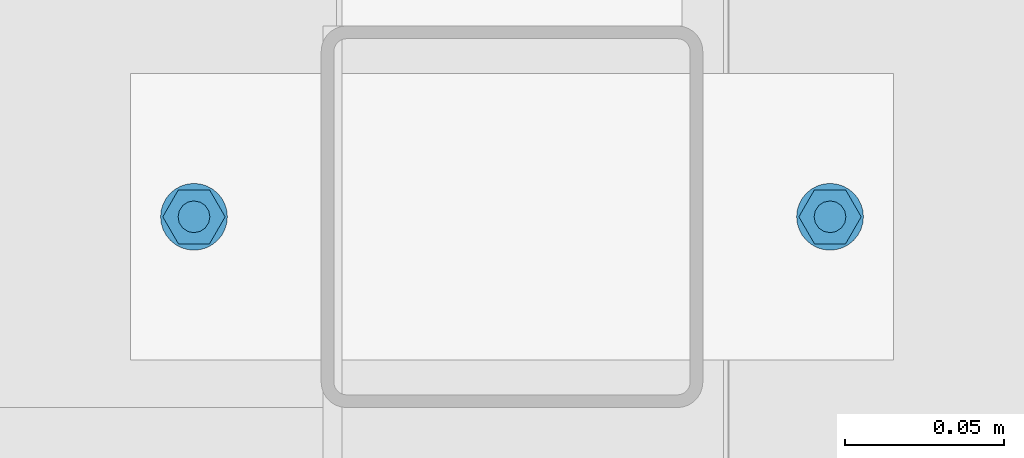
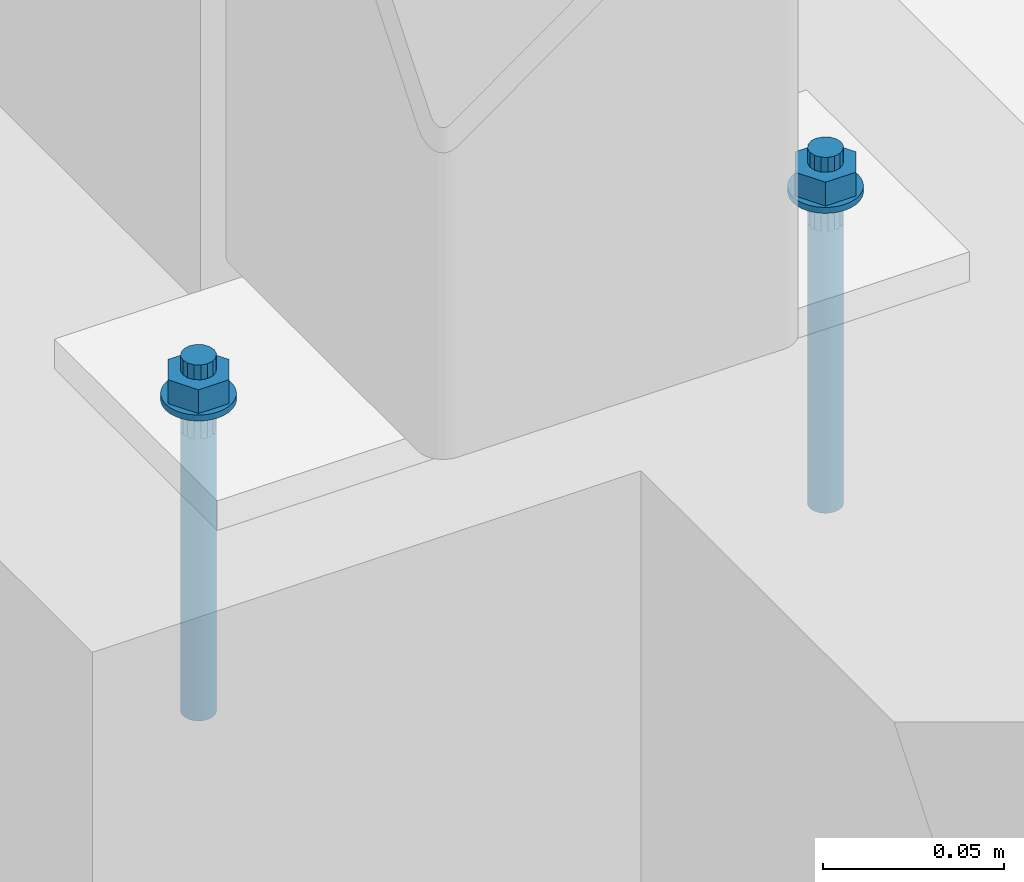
# One storey, part 93 of 476: 1 mechanical fastener.
"""IFC2X3 building model written with IfcOpenShell, lengths in millimetres."""

from ifc_helpers import new_model, entity, si_unit, converted_unit, origin_with_axes, place, context, project, spatial, faceted_brep, element, save


model = new_model("IFC2X3")

# Units and contexts
model_context = context("Model", 3, precision=1e-09, world=origin_with_axes())
ifc_project = project(units=[si_unit("LENGTHUNIT", "METRE", prefix="MILLI"), si_unit("AREAUNIT", "SQUARE_METRE"), si_unit("VOLUMEUNIT", "CUBIC_METRE"), converted_unit("PLANEANGLEUNIT", "DEGREE", entity("IfcPlaneAngleMeasure", 0.01745329), si_unit("PLANEANGLEUNIT", "RADIAN"), dimensions=[0, 0, 0, 0, 0, 0, 0])], contexts=[model_context])

# Site, building, storey
site_placement = place(None, origin_with_axes())
site = spatial("IfcSite", under=ifc_project, at=site_placement, Name="mKR Teilneubau & Sanierung BA1 - Ostfildern", CompositionType="ELEMENT")
building_placement = place(site_placement, origin_with_axes())
building = spatial("IfcBuilding", under=site, at=building_placement, Name="Struktur 1", CompositionType="ELEMENT")
storey_placement = place(building_placement, origin_with_axes())
storey = spatial("IfcBuildingStorey", under=building, at=storey_placement, Name="Default Storey", CompositionType="ELEMENT", Elevation=0.0)

# Mechanical fastener
mechanical_fastener_placement = place(None, origin_with_axes())
element("IfcMechanicalFastener", 1, at=mechanical_fastener_placement, inside=storey, ObjectType="Anchor_Bolt#1", NominalDiameter=10.0, NominalLength=120.0, context=model_context, shape_type="Brep", body=[
    faceted_brep([(8059.108804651, -17901.172034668, 527.0), (8059.108804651, -17901.172034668, 525.0), (8061.157253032, -17900.970280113, 525.0), (8061.157253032, -17900.970280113, 527.0), (8063.126980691, -17900.37276976, 525.0), (8063.126980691, -17900.37276976, 527.0), (8064.942292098, -17899.402465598, 525.0), (8064.942292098, -17899.402465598, 527.0), (8066.533425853, -17898.096655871, 525.0), (8066.533425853, -17898.096655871, 527.0), (8067.83923558, -17896.505522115, 525.0), (8067.83923558, -17896.505522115, 527.0), (8068.809539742, -17894.690210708, 525.0), (8068.809539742, -17894.690210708, 527.0), (8069.407050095, -17892.72048305, 525.0), (8069.407050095, -17892.72048305, 527.0), (8069.608804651, -17890.672034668, 525.0), (8069.608804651, -17890.672034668, 527.0), (8069.407050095, -17888.623586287, 525.0), (8069.407050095, -17888.623586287, 527.0), (8068.809539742, -17886.653858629, 525.0), (8068.809539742, -17886.653858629, 527.0), (8067.83923558, -17884.838547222, 525.0), (8067.83923558, -17884.838547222, 527.0), (8066.533425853, -17883.247413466, 525.0), (8066.533425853, -17883.247413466, 527.0), (8064.942292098, -17881.941603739, 525.0), (8064.942292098, -17881.941603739, 527.0), (8063.126980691, -17880.971299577, 525.0), (8063.126980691, -17880.971299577, 527.0), (8061.157253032, -17880.373789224, 525.0), (8061.157253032, -17880.373789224, 527.0), (8059.108804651, -17880.172034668, 525.0), (8059.108804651, -17880.172034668, 527.0), (8057.06035627, -17880.373789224, 525.0), (8057.06035627, -17880.373789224, 527.0), (8055.090628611, -17880.971299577, 525.0), (8055.090628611, -17880.971299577, 527.0), (8053.275317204, -17881.941603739, 525.0), (8053.275317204, -17881.941603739, 527.0), (8051.684183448, -17883.247413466, 525.0), (8051.684183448, -17883.247413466, 527.0), (8050.378373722, -17884.838547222, 525.0), (8050.378373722, -17884.838547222, 527.0), (8049.40806956, -17886.653858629, 525.0), (8049.40806956, -17886.653858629, 527.0), (8048.810559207, -17888.623586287, 525.0), (8048.810559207, -17888.623586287, 527.0), (8048.608804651, -17890.672034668, 525.0), (8048.608804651, -17890.672034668, 527.0), (8048.810559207, -17892.72048305, 525.0), (8048.810559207, -17892.72048305, 527.0), (8049.40806956, -17894.690210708, 525.0), (8049.40806956, -17894.690210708, 527.0), (8050.378373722, -17896.505522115, 525.0), (8050.378373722, -17896.505522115, 527.0), (8051.684183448, -17898.096655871, 525.0), (8051.684183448, -17898.096655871, 527.0), (8053.275317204, -17899.402465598, 525.0), (8053.275317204, -17899.402465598, 527.0), (8055.090628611, -17900.37276976, 525.0), (8055.090628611, -17900.37276976, 527.0), (8057.06035627, -17900.970280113, 525.0), (8057.06035627, -17900.970280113, 527.0)], [[[0, 1, 2, 3]], [[3, 2, 4, 5]], [[5, 4, 6, 7]], [[7, 6, 8, 9]], [[9, 8, 10, 11]], [[11, 10, 12, 13]], [[13, 12, 14, 15]], [[15, 14, 16, 17]], [[17, 16, 18, 19]], [[19, 18, 20, 21]], [[21, 20, 22, 23]], [[23, 22, 24, 25]], [[25, 24, 26, 27]], [[27, 26, 28, 29]], [[29, 28, 30, 31]], [[31, 30, 32, 33]], [[33, 32, 34, 35]], [[35, 34, 36, 37]], [[37, 36, 38, 39]], [[39, 38, 40, 41]], [[41, 40, 42, 43]], [[43, 42, 44, 45]], [[45, 44, 46, 47]], [[47, 46, 48, 49]], [[49, 48, 50, 51]], [[51, 50, 52, 53]], [[53, 52, 54, 55]], [[55, 54, 56, 57]], [[57, 56, 58, 59]], [[59, 58, 60, 61]], [[61, 60, 62, 63]], [[63, 62, 1, 0]], [[0, 3, 5, 7, 9, 11, 13, 15, 17, 19, 21, 23, 25, 27, 29, 31, 33, 35, 37, 39, 41, 43, 45, 47, 49, 51, 53, 55, 57, 59, 61, 63]], [[1, 62, 60, 58, 56, 54, 52, 50, 48, 46, 44, 42, 40, 38, 36, 34, 32, 30, 28, 26, 24, 22, 20, 18, 16, 14, 12, 10, 8, 6, 4, 2]]]),
    faceted_brep([(8259.108804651, -17901.172034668, 527.0), (8259.108804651, -17901.172034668, 525.0), (8261.157253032, -17900.970280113, 525.0), (8261.157253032, -17900.970280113, 527.0), (8263.126980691, -17900.37276976, 525.0), (8263.126980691, -17900.37276976, 527.0), (8264.942292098, -17899.402465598, 525.0), (8264.942292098, -17899.402465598, 527.0), (8266.533425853, -17898.096655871, 525.0), (8266.533425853, -17898.096655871, 527.0), (8267.83923558, -17896.505522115, 525.0), (8267.83923558, -17896.505522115, 527.0), (8268.809539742, -17894.690210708, 525.0), (8268.809539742, -17894.690210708, 527.0), (8269.407050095, -17892.72048305, 525.0), (8269.407050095, -17892.72048305, 527.0), (8269.608804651, -17890.672034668, 525.0), (8269.608804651, -17890.672034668, 527.0), (8269.407050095, -17888.623586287, 525.0), (8269.407050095, -17888.623586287, 527.0), (8268.809539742, -17886.653858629, 525.0), (8268.809539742, -17886.653858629, 527.0), (8267.83923558, -17884.838547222, 525.0), (8267.83923558, -17884.838547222, 527.0), (8266.533425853, -17883.247413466, 525.0), (8266.533425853, -17883.247413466, 527.0), (8264.942292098, -17881.941603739, 525.0), (8264.942292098, -17881.941603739, 527.0), (8263.126980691, -17880.971299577, 525.0), (8263.126980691, -17880.971299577, 527.0), (8261.157253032, -17880.373789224, 525.0), (8261.157253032, -17880.373789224, 527.0), (8259.108804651, -17880.172034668, 525.0), (8259.108804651, -17880.172034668, 527.0), (8257.06035627, -17880.373789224, 525.0), (8257.06035627, -17880.373789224, 527.0), (8255.090628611, -17880.971299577, 525.0), (8255.090628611, -17880.971299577, 527.0), (8253.275317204, -17881.941603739, 525.0), (8253.275317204, -17881.941603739, 527.0), (8251.684183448, -17883.247413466, 525.0), (8251.684183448, -17883.247413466, 527.0), (8250.378373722, -17884.838547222, 525.0), (8250.378373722, -17884.838547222, 527.0), (8249.40806956, -17886.653858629, 525.0), (8249.40806956, -17886.653858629, 527.0), (8248.810559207, -17888.623586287, 525.0), (8248.810559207, -17888.623586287, 527.0), (8248.608804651, -17890.672034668, 525.0), (8248.608804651, -17890.672034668, 527.0), (8248.810559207, -17892.72048305, 525.0), (8248.810559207, -17892.72048305, 527.0), (8249.40806956, -17894.690210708, 525.0), (8249.40806956, -17894.690210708, 527.0), (8250.378373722, -17896.505522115, 525.0), (8250.378373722, -17896.505522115, 527.0), (8251.684183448, -17898.096655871, 525.0), (8251.684183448, -17898.096655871, 527.0), (8253.275317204, -17899.402465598, 525.0), (8253.275317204, -17899.402465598, 527.0), (8255.090628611, -17900.37276976, 525.0), (8255.090628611, -17900.37276976, 527.0), (8257.06035627, -17900.970280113, 525.0), (8257.06035627, -17900.970280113, 527.0)], [[[0, 1, 2, 3]], [[3, 2, 4, 5]], [[5, 4, 6, 7]], [[7, 6, 8, 9]], [[9, 8, 10, 11]], [[11, 10, 12, 13]], [[13, 12, 14, 15]], [[15, 14, 16, 17]], [[17, 16, 18, 19]], [[19, 18, 20, 21]], [[21, 20, 22, 23]], [[23, 22, 24, 25]], [[25, 24, 26, 27]], [[27, 26, 28, 29]], [[29, 28, 30, 31]], [[31, 30, 32, 33]], [[33, 32, 34, 35]], [[35, 34, 36, 37]], [[37, 36, 38, 39]], [[39, 38, 40, 41]], [[41, 40, 42, 43]], [[43, 42, 44, 45]], [[45, 44, 46, 47]], [[47, 46, 48, 49]], [[49, 48, 50, 51]], [[51, 50, 52, 53]], [[53, 52, 54, 55]], [[55, 54, 56, 57]], [[57, 56, 58, 59]], [[59, 58, 60, 61]], [[61, 60, 62, 63]], [[63, 62, 1, 0]], [[0, 3, 5, 7, 9, 11, 13, 15, 17, 19, 21, 23, 25, 27, 29, 31, 33, 35, 37, 39, 41, 43, 45, 47, 49, 51, 53, 55, 57, 59, 61, 63]], [[1, 62, 60, 58, 56, 54, 52, 50, 48, 46, 44, 42, 40, 38, 36, 34, 32, 30, 28, 26, 24, 22, 20, 18, 16, 14, 12, 10, 8, 6, 4, 2]]]),
    faceted_brep([(8064.008804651, -17882.184985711, 527.0), (8064.008804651, -17882.184985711, 535.0), (8068.908804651, -17890.672034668, 535.0), (8068.908804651, -17890.672034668, 527.0), (8064.008804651, -17899.159083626, 535.0), (8064.008804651, -17899.159083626, 527.0), (8054.208804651, -17899.159083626, 535.0), (8054.208804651, -17899.159083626, 527.0), (8049.308804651, -17890.672034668, 535.0), (8049.308804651, -17890.672034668, 527.0), (8054.208804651, -17882.184985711, 535.0), (8054.208804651, -17882.184985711, 527.0)], [[[0, 1, 2, 3]], [[3, 2, 4, 5]], [[5, 4, 6, 7]], [[7, 6, 8, 9]], [[9, 8, 10, 11]], [[11, 10, 1, 0]], [[4, 2, 1, 10, 8, 6]], [[0, 3, 5, 7, 9, 11]]]),
    faceted_brep([(8264.008804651, -17882.184985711, 527.0), (8264.008804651, -17882.184985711, 535.0), (8268.908804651, -17890.672034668, 535.0), (8268.908804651, -17890.672034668, 527.0), (8264.008804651, -17899.159083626, 535.0), (8264.008804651, -17899.159083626, 527.0), (8254.208804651, -17899.159083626, 535.0), (8254.208804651, -17899.159083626, 527.0), (8249.308804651, -17890.672034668, 535.0), (8249.308804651, -17890.672034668, 527.0), (8254.208804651, -17882.184985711, 535.0), (8254.208804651, -17882.184985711, 527.0)], [[[0, 1, 2, 3]], [[3, 2, 4, 5]], [[5, 4, 6, 7]], [[7, 6, 8, 9]], [[9, 8, 10, 11]], [[11, 10, 1, 0]], [[4, 2, 1, 10, 8, 6]], [[0, 3, 5, 7, 9, 11]]]),
    faceted_brep([(8059.108804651, -17895.672034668, 540.0), (8059.108804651, -17895.672034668, 535.0), (8061.022221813, -17895.291432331, 535.0), (8061.022221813, -17895.291432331, 540.0), (8062.644338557, -17894.207568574, 535.0), (8062.644338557, -17894.207568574, 540.0), (8063.728202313, -17892.58545183, 535.0), (8063.728202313, -17892.58545183, 540.0), (8064.108804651, -17890.672034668, 535.0), (8064.108804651, -17890.672034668, 540.0), (8063.728202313, -17888.758617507, 535.0), (8063.728202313, -17888.758617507, 540.0), (8062.644338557, -17887.136500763, 535.0), (8062.644338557, -17887.136500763, 540.0), (8061.022221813, -17886.052637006, 535.0), (8061.022221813, -17886.052637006, 540.0), (8059.108804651, -17885.672034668, 535.0), (8059.108804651, -17885.672034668, 540.0), (8057.195387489, -17886.052637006, 535.0), (8057.195387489, -17886.052637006, 540.0), (8055.573270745, -17887.136500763, 535.0), (8055.573270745, -17887.136500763, 540.0), (8054.489406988, -17888.758617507, 535.0), (8054.489406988, -17888.758617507, 540.0), (8054.108804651, -17890.672034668, 535.0), (8054.108804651, -17890.672034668, 540.0), (8054.489406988, -17892.58545183, 535.0), (8054.489406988, -17892.58545183, 540.0), (8055.573270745, -17894.207568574, 535.0), (8055.573270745, -17894.207568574, 540.0), (8057.195387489, -17895.291432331, 535.0), (8057.195387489, -17895.291432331, 540.0)], [[[0, 1, 2, 3]], [[3, 2, 4, 5]], [[5, 4, 6, 7]], [[7, 6, 8, 9]], [[9, 8, 10, 11]], [[11, 10, 12, 13]], [[13, 12, 14, 15]], [[15, 14, 16, 17]], [[17, 16, 18, 19]], [[19, 18, 20, 21]], [[21, 20, 22, 23]], [[23, 22, 24, 25]], [[25, 24, 26, 27]], [[27, 26, 28, 29]], [[29, 28, 30, 31]], [[31, 30, 1, 0]], [[0, 3, 5, 7, 9, 11, 13, 15, 17, 19, 21, 23, 25, 27, 29, 31]], [[1, 30, 28, 26, 24, 22, 20, 18, 16, 14, 12, 10, 8, 6, 4, 2]]]),
    faceted_brep([(8259.108804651, -17895.672034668, 540.0), (8259.108804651, -17895.672034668, 535.0), (8261.022221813, -17895.291432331, 535.0), (8261.022221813, -17895.291432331, 540.0), (8262.644338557, -17894.207568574, 535.0), (8262.644338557, -17894.207568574, 540.0), (8263.728202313, -17892.58545183, 535.0), (8263.728202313, -17892.58545183, 540.0), (8264.108804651, -17890.672034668, 535.0), (8264.108804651, -17890.672034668, 540.0), (8263.728202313, -17888.758617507, 535.0), (8263.728202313, -17888.758617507, 540.0), (8262.644338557, -17887.136500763, 535.0), (8262.644338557, -17887.136500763, 540.0), (8261.022221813, -17886.052637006, 535.0), (8261.022221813, -17886.052637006, 540.0), (8259.108804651, -17885.672034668, 535.0), (8259.108804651, -17885.672034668, 540.0), (8257.195387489, -17886.052637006, 535.0), (8257.195387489, -17886.052637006, 540.0), (8255.573270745, -17887.136500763, 535.0), (8255.573270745, -17887.136500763, 540.0), (8254.489406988, -17888.758617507, 535.0), (8254.489406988, -17888.758617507, 540.0), (8254.108804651, -17890.672034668, 535.0), (8254.108804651, -17890.672034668, 540.0), (8254.489406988, -17892.58545183, 535.0), (8254.489406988, -17892.58545183, 540.0), (8255.573270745, -17894.207568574, 535.0), (8255.573270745, -17894.207568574, 540.0), (8257.195387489, -17895.291432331, 535.0), (8257.195387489, -17895.291432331, 540.0)], [[[0, 1, 2, 3]], [[3, 2, 4, 5]], [[5, 4, 6, 7]], [[7, 6, 8, 9]], [[9, 8, 10, 11]], [[11, 10, 12, 13]], [[13, 12, 14, 15]], [[15, 14, 16, 17]], [[17, 16, 18, 19]], [[19, 18, 20, 21]], [[21, 20, 22, 23]], [[23, 22, 24, 25]], [[25, 24, 26, 27]], [[27, 26, 28, 29]], [[29, 28, 30, 31]], [[31, 30, 1, 0]], [[0, 3, 5, 7, 9, 11, 13, 15, 17, 19, 21, 23, 25, 27, 29, 31]], [[1, 30, 28, 26, 24, 22, 20, 18, 16, 14, 12, 10, 8, 6, 4, 2]]]),
    faceted_brep([(8059.108804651, -17895.672034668, 525.0), (8059.108804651, -17895.672034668, 515.0), (8061.022221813, -17895.291432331, 515.0), (8061.022221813, -17895.291432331, 525.0), (8062.644338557, -17894.207568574, 515.0), (8062.644338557, -17894.207568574, 525.0), (8063.728202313, -17892.58545183, 515.0), (8063.728202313, -17892.58545183, 525.0), (8064.108804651, -17890.672034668, 515.0), (8064.108804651, -17890.672034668, 525.0), (8063.728202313, -17888.758617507, 515.0), (8063.728202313, -17888.758617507, 525.0), (8062.644338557, -17887.136500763, 515.0), (8062.644338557, -17887.136500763, 525.0), (8061.022221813, -17886.052637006, 515.0), (8061.022221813, -17886.052637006, 525.0), (8059.108804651, -17885.672034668, 515.0), (8059.108804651, -17885.672034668, 525.0), (8057.195387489, -17886.052637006, 515.0), (8057.195387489, -17886.052637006, 525.0), (8055.573270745, -17887.136500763, 515.0), (8055.573270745, -17887.136500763, 525.0), (8054.489406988, -17888.758617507, 515.0), (8054.489406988, -17888.758617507, 525.0), (8054.108804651, -17890.672034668, 515.0), (8054.108804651, -17890.672034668, 525.0), (8054.489406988, -17892.58545183, 515.0), (8054.489406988, -17892.58545183, 525.0), (8055.573270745, -17894.207568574, 515.0), (8055.573270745, -17894.207568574, 525.0), (8057.195387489, -17895.291432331, 515.0), (8057.195387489, -17895.291432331, 525.0)], [[[0, 1, 2, 3]], [[3, 2, 4, 5]], [[5, 4, 6, 7]], [[7, 6, 8, 9]], [[9, 8, 10, 11]], [[11, 10, 12, 13]], [[13, 12, 14, 15]], [[15, 14, 16, 17]], [[17, 16, 18, 19]], [[19, 18, 20, 21]], [[21, 20, 22, 23]], [[23, 22, 24, 25]], [[25, 24, 26, 27]], [[27, 26, 28, 29]], [[29, 28, 30, 31]], [[31, 30, 1, 0]], [[0, 3, 5, 7, 9, 11, 13, 15, 17, 19, 21, 23, 25, 27, 29, 31]], [[1, 30, 28, 26, 24, 22, 20, 18, 16, 14, 12, 10, 8, 6, 4, 2]]]),
    faceted_brep([(8259.108804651, -17895.672034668, 525.0), (8259.108804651, -17895.672034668, 515.0), (8261.022221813, -17895.291432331, 515.0), (8261.022221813, -17895.291432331, 525.0), (8262.644338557, -17894.207568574, 515.0), (8262.644338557, -17894.207568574, 525.0), (8263.728202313, -17892.58545183, 515.0), (8263.728202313, -17892.58545183, 525.0), (8264.108804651, -17890.672034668, 515.0), (8264.108804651, -17890.672034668, 525.0), (8263.728202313, -17888.758617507, 515.0), (8263.728202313, -17888.758617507, 525.0), (8262.644338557, -17887.136500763, 515.0), (8262.644338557, -17887.136500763, 525.0), (8261.022221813, -17886.052637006, 515.0), (8261.022221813, -17886.052637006, 525.0), (8259.108804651, -17885.672034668, 515.0), (8259.108804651, -17885.672034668, 525.0), (8257.195387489, -17886.052637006, 515.0), (8257.195387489, -17886.052637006, 525.0), (8255.573270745, -17887.136500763, 515.0), (8255.573270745, -17887.136500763, 525.0), (8254.489406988, -17888.758617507, 515.0), (8254.489406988, -17888.758617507, 525.0), (8254.108804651, -17890.672034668, 515.0), (8254.108804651, -17890.672034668, 525.0), (8254.489406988, -17892.58545183, 515.0), (8254.489406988, -17892.58545183, 525.0), (8255.573270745, -17894.207568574, 515.0), (8255.573270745, -17894.207568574, 525.0), (8257.195387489, -17895.291432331, 515.0), (8257.195387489, -17895.291432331, 525.0)], [[[0, 1, 2, 3]], [[3, 2, 4, 5]], [[5, 4, 6, 7]], [[7, 6, 8, 9]], [[9, 8, 10, 11]], [[11, 10, 12, 13]], [[13, 12, 14, 15]], [[15, 14, 16, 17]], [[17, 16, 18, 19]], [[19, 18, 20, 21]], [[21, 20, 22, 23]], [[23, 22, 24, 25]], [[25, 24, 26, 27]], [[27, 26, 28, 29]], [[29, 28, 30, 31]], [[31, 30, 1, 0]], [[0, 3, 5, 7, 9, 11, 13, 15, 17, 19, 21, 23, 25, 27, 29, 31]], [[1, 30, 28, 26, 24, 22, 20, 18, 16, 14, 12, 10, 8, 6, 4, 2]]]),
    faceted_brep([(8059.108804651, -17895.672034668, 515.0), (8059.108804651, -17895.672034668, 420.0), (8060.084256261, -17895.57596107, 420.0), (8060.084256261, -17895.57596107, 515.0), (8061.022221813, -17895.291432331, 420.0), (8061.022221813, -17895.291432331, 515.0), (8061.886655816, -17894.82938273, 420.0), (8061.886655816, -17894.82938273, 515.0), (8062.644338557, -17894.207568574, 420.0), (8062.644338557, -17894.207568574, 515.0), (8063.266152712, -17893.449885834, 420.0), (8063.266152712, -17893.449885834, 515.0), (8063.728202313, -17892.58545183, 420.0), (8063.728202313, -17892.58545183, 515.0), (8064.012731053, -17891.647486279, 420.0), (8064.012731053, -17891.647486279, 515.0), (8064.108804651, -17890.672034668, 420.0), (8064.108804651, -17890.672034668, 515.0), (8064.012731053, -17889.696583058, 420.0), (8064.012731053, -17889.696583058, 515.0), (8063.728202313, -17888.758617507, 420.0), (8063.728202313, -17888.758617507, 515.0), (8063.266152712, -17887.894183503, 420.0), (8063.266152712, -17887.894183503, 515.0), (8062.644338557, -17887.136500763, 420.0), (8062.644338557, -17887.136500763, 515.0), (8061.886655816, -17886.514686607, 420.0), (8061.886655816, -17886.514686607, 515.0), (8061.022221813, -17886.052637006, 420.0), (8061.022221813, -17886.052637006, 515.0), (8060.084256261, -17885.768108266, 420.0), (8060.084256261, -17885.768108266, 515.0), (8059.108804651, -17885.672034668, 420.0), (8059.108804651, -17885.672034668, 515.0), (8058.133353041, -17885.768108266, 420.0), (8058.133353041, -17885.768108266, 515.0), (8057.195387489, -17886.052637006, 420.0), (8057.195387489, -17886.052637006, 515.0), (8056.330953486, -17886.514686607, 420.0), (8056.330953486, -17886.514686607, 515.0), (8055.573270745, -17887.136500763, 420.0), (8055.573270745, -17887.136500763, 515.0), (8054.951456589, -17887.894183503, 420.0), (8054.951456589, -17887.894183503, 515.0), (8054.489406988, -17888.758617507, 420.0), (8054.489406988, -17888.758617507, 515.0), (8054.204878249, -17889.696583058, 420.0), (8054.204878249, -17889.696583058, 515.0), (8054.108804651, -17890.672034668, 420.0), (8054.108804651, -17890.672034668, 515.0), (8054.204878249, -17891.647486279, 420.0), (8054.204878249, -17891.647486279, 515.0), (8054.489406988, -17892.58545183, 420.0), (8054.489406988, -17892.58545183, 515.0), (8054.951456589, -17893.449885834, 420.0), (8054.951456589, -17893.449885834, 515.0), (8055.573270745, -17894.207568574, 420.0), (8055.573270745, -17894.207568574, 515.0), (8056.330953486, -17894.82938273, 420.0), (8056.330953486, -17894.82938273, 515.0), (8057.195387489, -17895.291432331, 420.0), (8057.195387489, -17895.291432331, 515.0), (8058.133353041, -17895.57596107, 420.0), (8058.133353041, -17895.57596107, 515.0)], [[[0, 1, 2, 3]], [[3, 2, 4, 5]], [[5, 4, 6, 7]], [[7, 6, 8, 9]], [[9, 8, 10, 11]], [[11, 10, 12, 13]], [[13, 12, 14, 15]], [[15, 14, 16, 17]], [[17, 16, 18, 19]], [[19, 18, 20, 21]], [[21, 20, 22, 23]], [[23, 22, 24, 25]], [[25, 24, 26, 27]], [[27, 26, 28, 29]], [[29, 28, 30, 31]], [[31, 30, 32, 33]], [[33, 32, 34, 35]], [[35, 34, 36, 37]], [[37, 36, 38, 39]], [[39, 38, 40, 41]], [[41, 40, 42, 43]], [[43, 42, 44, 45]], [[45, 44, 46, 47]], [[47, 46, 48, 49]], [[49, 48, 50, 51]], [[51, 50, 52, 53]], [[53, 52, 54, 55]], [[55, 54, 56, 57]], [[57, 56, 58, 59]], [[59, 58, 60, 61]], [[61, 60, 62, 63]], [[63, 62, 1, 0]], [[0, 3, 5, 7, 9, 11, 13, 15, 17, 19, 21, 23, 25, 27, 29, 31, 33, 35, 37, 39, 41, 43, 45, 47, 49, 51, 53, 55, 57, 59, 61, 63]], [[1, 62, 60, 58, 56, 54, 52, 50, 48, 46, 44, 42, 40, 38, 36, 34, 32, 30, 28, 26, 24, 22, 20, 18, 16, 14, 12, 10, 8, 6, 4, 2]]]),
    faceted_brep([(8259.108804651, -17895.672034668, 515.0), (8259.108804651, -17895.672034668, 420.0), (8260.084256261, -17895.57596107, 420.0), (8260.084256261, -17895.57596107, 515.0), (8261.022221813, -17895.291432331, 420.0), (8261.022221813, -17895.291432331, 515.0), (8261.886655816, -17894.82938273, 420.0), (8261.886655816, -17894.82938273, 515.0), (8262.644338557, -17894.207568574, 420.0), (8262.644338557, -17894.207568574, 515.0), (8263.266152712, -17893.449885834, 420.0), (8263.266152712, -17893.449885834, 515.0), (8263.728202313, -17892.58545183, 420.0), (8263.728202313, -17892.58545183, 515.0), (8264.012731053, -17891.647486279, 420.0), (8264.012731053, -17891.647486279, 515.0), (8264.108804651, -17890.672034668, 420.0), (8264.108804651, -17890.672034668, 515.0), (8264.012731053, -17889.696583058, 420.0), (8264.012731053, -17889.696583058, 515.0), (8263.728202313, -17888.758617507, 420.0), (8263.728202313, -17888.758617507, 515.0), (8263.266152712, -17887.894183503, 420.0), (8263.266152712, -17887.894183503, 515.0), (8262.644338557, -17887.136500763, 420.0), (8262.644338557, -17887.136500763, 515.0), (8261.886655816, -17886.514686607, 420.0), (8261.886655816, -17886.514686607, 515.0), (8261.022221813, -17886.052637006, 420.0), (8261.022221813, -17886.052637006, 515.0), (8260.084256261, -17885.768108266, 420.0), (8260.084256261, -17885.768108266, 515.0), (8259.108804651, -17885.672034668, 420.0), (8259.108804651, -17885.672034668, 515.0), (8258.133353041, -17885.768108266, 420.0), (8258.133353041, -17885.768108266, 515.0), (8257.195387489, -17886.052637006, 420.0), (8257.195387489, -17886.052637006, 515.0), (8256.330953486, -17886.514686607, 420.0), (8256.330953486, -17886.514686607, 515.0), (8255.573270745, -17887.136500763, 420.0), (8255.573270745, -17887.136500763, 515.0), (8254.951456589, -17887.894183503, 420.0), (8254.951456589, -17887.894183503, 515.0), (8254.489406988, -17888.758617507, 420.0), (8254.489406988, -17888.758617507, 515.0), (8254.204878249, -17889.696583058, 420.0), (8254.204878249, -17889.696583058, 515.0), (8254.108804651, -17890.672034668, 420.0), (8254.108804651, -17890.672034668, 515.0), (8254.204878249, -17891.647486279, 420.0), (8254.204878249, -17891.647486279, 515.0), (8254.489406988, -17892.58545183, 420.0), (8254.489406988, -17892.58545183, 515.0), (8254.951456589, -17893.449885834, 420.0), (8254.951456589, -17893.449885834, 515.0), (8255.573270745, -17894.207568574, 420.0), (8255.573270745, -17894.207568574, 515.0), (8256.330953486, -17894.82938273, 420.0), (8256.330953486, -17894.82938273, 515.0), (8257.195387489, -17895.291432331, 420.0), (8257.195387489, -17895.291432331, 515.0), (8258.133353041, -17895.57596107, 420.0), (8258.133353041, -17895.57596107, 515.0)], [[[0, 1, 2, 3]], [[3, 2, 4, 5]], [[5, 4, 6, 7]], [[7, 6, 8, 9]], [[9, 8, 10, 11]], [[11, 10, 12, 13]], [[13, 12, 14, 15]], [[15, 14, 16, 17]], [[17, 16, 18, 19]], [[19, 18, 20, 21]], [[21, 20, 22, 23]], [[23, 22, 24, 25]], [[25, 24, 26, 27]], [[27, 26, 28, 29]], [[29, 28, 30, 31]], [[31, 30, 32, 33]], [[33, 32, 34, 35]], [[35, 34, 36, 37]], [[37, 36, 38, 39]], [[39, 38, 40, 41]], [[41, 40, 42, 43]], [[43, 42, 44, 45]], [[45, 44, 46, 47]], [[47, 46, 48, 49]], [[49, 48, 50, 51]], [[51, 50, 52, 53]], [[53, 52, 54, 55]], [[55, 54, 56, 57]], [[57, 56, 58, 59]], [[59, 58, 60, 61]], [[61, 60, 62, 63]], [[63, 62, 1, 0]], [[0, 3, 5, 7, 9, 11, 13, 15, 17, 19, 21, 23, 25, 27, 29, 31, 33, 35, 37, 39, 41, 43, 45, 47, 49, 51, 53, 55, 57, 59, 61, 63]], [[1, 62, 60, 58, 56, 54, 52, 50, 48, 46, 44, 42, 40, 38, 36, 34, 32, 30, 28, 26, 24, 22, 20, 18, 16, 14, 12, 10, 8, 6, 4, 2]]]),
])

save(model, "model.ifc")
